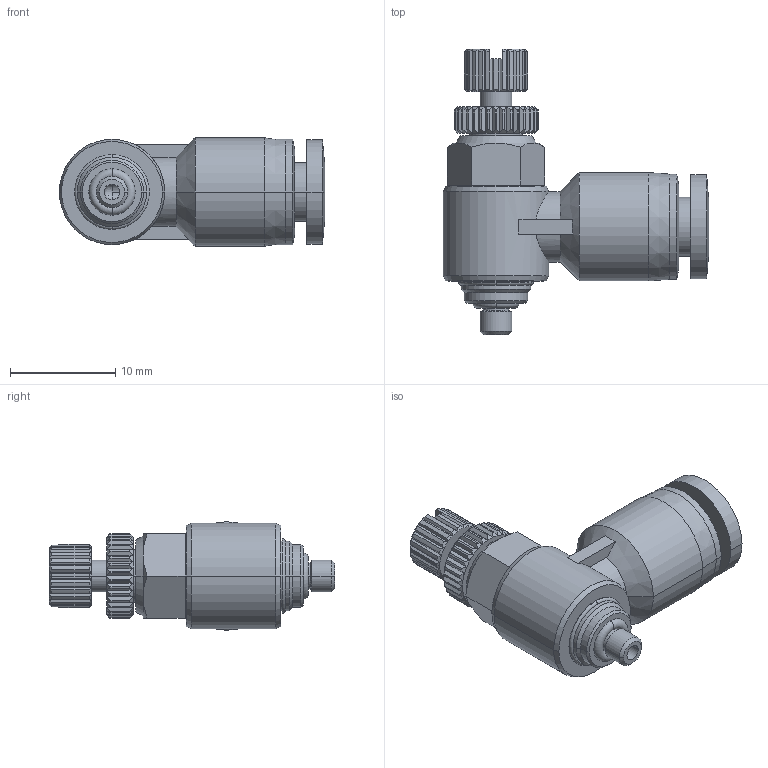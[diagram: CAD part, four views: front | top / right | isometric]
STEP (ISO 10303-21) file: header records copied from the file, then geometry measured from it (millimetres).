
FILE_DESCRIPTION (( 'STEP AP203' ), '1' );
FILE_NAME ('SCL04-M3.STEP', '2020-05-12T15:33:46', ( '' ), ( '' ), 'SwSTEP 2.0', 'SolidWorks 2019', '' );
FILE_SCHEMA (( 'CONFIG_CONTROL_DESIGN' ));
Length unit declared in the file: millimetre
Products named in the file (1): SCL04-M3
Bounding box: 25.2 x 27.1 x 10.3 mm (x, y, z)
Volume: 2132.9 mm3; surface area: 1829.9 mm2
Topology: 1 solids, 1 shells, 335 faces, 831 edges, 510 vertices
Faces by surface type: plane 148, cylinder 98, cone 81, torus 6, sphere 2
Entity records: 9782 total; most frequent: CARTESIAN_POINT 2306, ORIENTED_EDGE 1658, DIRECTION 1539, EDGE_CURVE 829, AXIS2_PLACEMENT_3D 630, VERTEX_POINT 509, EDGE_LOOP 350, ADVANCED_FACE 335
